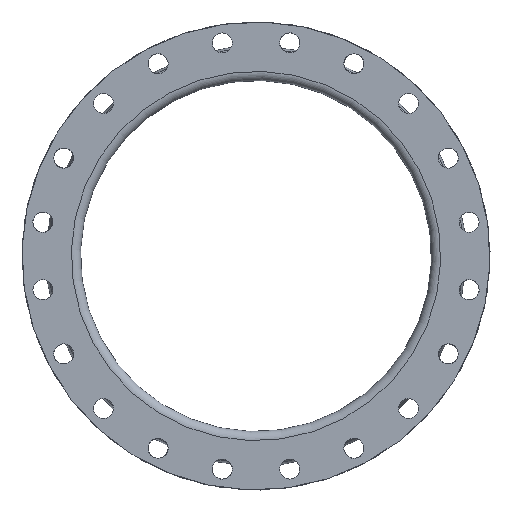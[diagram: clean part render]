
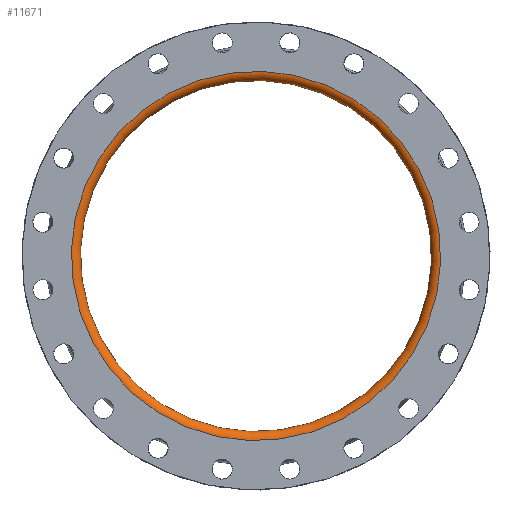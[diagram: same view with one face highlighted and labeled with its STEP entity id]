
A CAD part, left-side view. The second image highlights one B-rep face of the part: STEP entity #11671.
In plain terms, the highlighted toroidal (fillet/blend) face has major radius 320.675 mm and minor radius 15.875 mm.
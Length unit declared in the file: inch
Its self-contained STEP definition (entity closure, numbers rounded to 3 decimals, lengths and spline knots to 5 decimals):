
#11028=CARTESIAN_POINT('',(-7.5,12.625,0.0));
#11029=VERTEX_POINT('',#11028);
#11030=CARTESIAN_POINT('',(-7.5,0.,0.0));
#11031=DIRECTION('',(1.0,0.0,0.0));
#11032=DIRECTION('',(0.0,1.0,0.0));
#11033=AXIS2_PLACEMENT_3D('',#11030,#11031,#11032);
#11034=CIRCLE('',#11033,12.625);
#11035=EDGE_CURVE('',#11029,#11029,#11034,.T.);
#11645=CARTESIAN_POINT('',(-6.875,12.0,0.0));
#11646=VERTEX_POINT('',#11645);
#11647=CARTESIAN_POINT('',(-6.875,0.,0.0));
#11648=DIRECTION('',(1.0,0.0,0.0));
#11649=DIRECTION('',(0.0,1.0,0.0));
#11650=AXIS2_PLACEMENT_3D('',#11647,#11648,#11649);
#11651=CIRCLE('',#11650,12.0);
#11652=EDGE_CURVE('',#11646,#11646,#11651,.T.);
#11660=CARTESIAN_POINT('',(-6.875,0.0,0.0));
#11661=DIRECTION('',(1.0,0.,0.0));
#11662=DIRECTION('',(0.0,0.0,-1.0));
#11663=AXIS2_PLACEMENT_3D('',#11660,#11661,#11662);
#11664=TOROIDAL_SURFACE('',#11663,12.625,0.625);
#11665=ORIENTED_EDGE('',*,*,#11035,.F.);
#11666=EDGE_LOOP('',(#11665));
#11667=FACE_OUTER_BOUND('',#11666,.T.);
#11668=ORIENTED_EDGE('',*,*,#11652,.T.);
#11669=EDGE_LOOP('',(#11668));
#11670=FACE_BOUND('',#11669,.T.);
#11671=ADVANCED_FACE('',(#11667,#11670),#11664,.T.);
